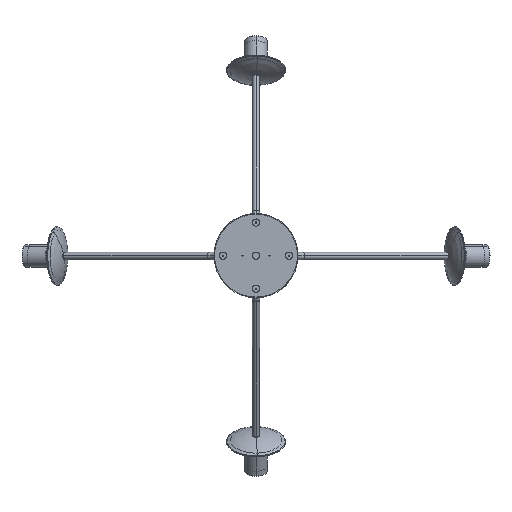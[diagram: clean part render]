
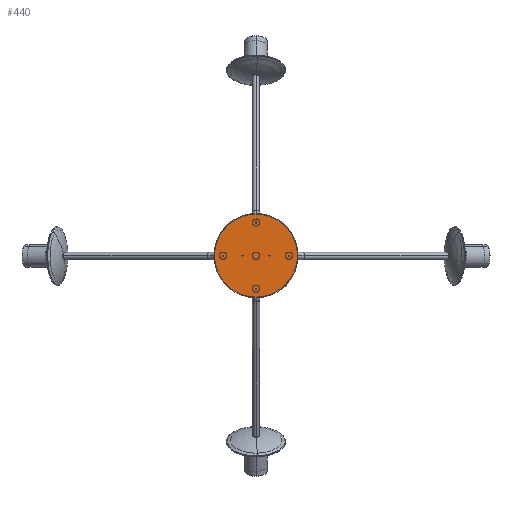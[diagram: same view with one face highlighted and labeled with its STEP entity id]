
A CAD part, top view. The second image highlights one B-rep face of the part: STEP entity #440.
In plain terms, the highlighted planar face has unit normal (0, 0, 1).
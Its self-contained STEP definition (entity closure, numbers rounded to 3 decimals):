
#36 = ORIENTED_EDGE ( 'NONE', *, *, #2342, .F. ) ;
#54 = FACE_BOUND ( 'NONE', #952, .T. ) ;
#59 = CARTESIAN_POINT ( 'NONE',  ( 0., 55., 1. ) ) ;
#129 = ORIENTED_EDGE ( 'NONE', *, *, #1726, .F. ) ;
#174 = EDGE_CURVE ( 'NONE', #4652, #2430, #6515, .T. ) ;
#255 = ORIENTED_EDGE ( 'NONE', *, *, #4792, .F. ) ;
#278 = CIRCLE ( 'NONE', #394, 1. ) ;
#299 = AXIS2_PLACEMENT_3D ( 'NONE', #4679, #3599, #4243 ) ;
#394 = AXIS2_PLACEMENT_3D ( 'NONE', #4244, #6432, #6499 ) ;
#439 = VERTEX_POINT ( 'NONE', #3881 ) ;
#440 = ADVANCED_FACE ( 'NONE', ( #5601, #6066, #1149, #4524, #54, #2772, #3455 ), #3837, .T. ) ;
#505 = DIRECTION ( 'NONE',  ( 1., 0., 0. ) ) ;
#596 = DIRECTION ( 'NONE',  ( 0., 0., 1. ) ) ;
#603 = CIRCLE ( 'NONE', #6935, 1. ) ;
#607 = VERTEX_POINT ( 'NONE', #6214 ) ;
#640 = CIRCLE ( 'NONE', #2499, 1. ) ;
#642 = CARTESIAN_POINT ( 'NONE',  ( 0., 0., 1. ) ) ;
#645 = ORIENTED_EDGE ( 'NONE', *, *, #6784, .F. ) ;
#668 = VERTEX_POINT ( 'NONE', #859 ) ;
#793 = VERTEX_POINT ( 'NONE', #3097 ) ;
#859 = CARTESIAN_POINT ( 'NONE',  ( 56., 0., 1. ) ) ;
#952 = EDGE_LOOP ( 'NONE', ( #5152, #36 ) ) ;
#965 = DIRECTION ( 'NONE',  ( 1., 0., 0. ) ) ;
#995 = AXIS2_PLACEMENT_3D ( 'NONE', #5198, #2480, #4665 ) ;
#1036 = DIRECTION ( 'NONE',  ( 1., 0., 0. ) ) ;
#1093 = AXIS2_PLACEMENT_3D ( 'NONE', #6292, #2016, #965 ) ;
#1149 = FACE_BOUND ( 'NONE', #3387, .T. ) ;
#1202 = CARTESIAN_POINT ( 'NONE',  ( 22.5, 0., 1. ) ) ;
#1279 = EDGE_LOOP ( 'NONE', ( #5961, #3084 ) ) ;
#1281 = VERTEX_POINT ( 'NONE', #2678 ) ;
#1299 = VERTEX_POINT ( 'NONE', #5943 ) ;
#1341 = AXIS2_PLACEMENT_3D ( 'NONE', #59, #4462, #1592 ) ;
#1399 = DIRECTION ( 'NONE',  ( 0., 0., 1. ) ) ;
#1429 = DIRECTION ( 'NONE',  ( 1., 0., 0. ) ) ;
#1457 = CIRCLE ( 'NONE', #2262, 1. ) ;
#1592 = DIRECTION ( 'NONE',  ( 1., 0., 0. ) ) ;
#1672 = CIRCLE ( 'NONE', #2702, 1. ) ;
#1726 = EDGE_CURVE ( 'NONE', #2430, #4652, #278, .T. ) ;
#1808 = ORIENTED_EDGE ( 'NONE', *, *, #6871, .F. ) ;
#1926 = CIRCLE ( 'NONE', #2952, 69. ) ;
#2016 = DIRECTION ( 'NONE',  ( 0., 0., 1. ) ) ;
#2032 = AXIS2_PLACEMENT_3D ( 'NONE', #5624, #3866, #6700 ) ;
#2097 = CARTESIAN_POINT ( 'NONE',  ( 0., -55., 1. ) ) ;
#2131 = DIRECTION ( 'NONE',  ( 0., 0., 1. ) ) ;
#2165 = EDGE_CURVE ( 'NONE', #3138, #6510, #5115, .T. ) ;
#2262 = AXIS2_PLACEMENT_3D ( 'NONE', #2551, #1399, #1429 ) ;
#2286 = CARTESIAN_POINT ( 'NONE',  ( -22.5, 0., 1. ) ) ;
#2288 = DIRECTION ( 'NONE',  ( -1., 0., 0. ) ) ;
#2321 = DIRECTION ( 'NONE',  ( 1., 0., 0. ) ) ;
#2342 = EDGE_CURVE ( 'NONE', #1299, #3072, #1672, .T. ) ;
#2356 = CARTESIAN_POINT ( 'NONE',  ( 54., 0., 1. ) ) ;
#2402 = ORIENTED_EDGE ( 'NONE', *, *, #4016, .F. ) ;
#2430 = VERTEX_POINT ( 'NONE', #3109 ) ;
#2469 = AXIS2_PLACEMENT_3D ( 'NONE', #642, #596, #2879 ) ;
#2480 = DIRECTION ( 'NONE',  ( 0., 0., 1. ) ) ;
#2499 = AXIS2_PLACEMENT_3D ( 'NONE', #6632, #2651, #1036 ) ;
#2542 = ORIENTED_EDGE ( 'NONE', *, *, #4980, .F. ) ;
#2551 = CARTESIAN_POINT ( 'NONE',  ( 55., 0., 1. ) ) ;
#2651 = DIRECTION ( 'NONE',  ( 0., 0., 1. ) ) ;
#2678 = CARTESIAN_POINT ( 'NONE',  ( 69., 0., 1. ) ) ;
#2702 = AXIS2_PLACEMENT_3D ( 'NONE', #2097, #2131, #3175 ) ;
#2772 = FACE_BOUND ( 'NONE', #1279, .T. ) ;
#2830 = CIRCLE ( 'NONE', #5569, 1. ) ;
#2879 = DIRECTION ( 'NONE',  ( 1., 0., 0. ) ) ;
#2925 = CARTESIAN_POINT ( 'NONE',  ( -55., 0., 1. ) ) ;
#2931 = DIRECTION ( 'NONE',  ( 0., 0., -1. ) ) ;
#2952 = AXIS2_PLACEMENT_3D ( 'NONE', #3470, #2931, #2288 ) ;
#3028 = ORIENTED_EDGE ( 'NONE', *, *, #174, .F. ) ;
#3048 = EDGE_CURVE ( 'NONE', #4613, #668, #5797, .T. ) ;
#3072 = VERTEX_POINT ( 'NONE', #5847 ) ;
#3084 = ORIENTED_EDGE ( 'NONE', *, *, #2165, .F. ) ;
#3097 = CARTESIAN_POINT ( 'NONE',  ( -56., 0., 1. ) ) ;
#3109 = CARTESIAN_POINT ( 'NONE',  ( -23.5, 0., 1. ) ) ;
#3138 = VERTEX_POINT ( 'NONE', #5279 ) ;
#3173 = CIRCLE ( 'NONE', #2032, 69. ) ;
#3175 = DIRECTION ( 'NONE',  ( 1., 0., 0. ) ) ;
#3251 = EDGE_LOOP ( 'NONE', ( #3028, #129 ) ) ;
#3256 = EDGE_CURVE ( 'NONE', #6510, #3138, #2830, .T. ) ;
#3387 = EDGE_LOOP ( 'NONE', ( #2402, #1808 ) ) ;
#3455 = FACE_OUTER_BOUND ( 'NONE', #5084, .T. ) ;
#3470 = CARTESIAN_POINT ( 'NONE',  ( 0., 0., 1. ) ) ;
#3538 = EDGE_LOOP ( 'NONE', ( #645, #6770 ) ) ;
#3599 = DIRECTION ( 'NONE',  ( 0., 0., 1. ) ) ;
#3611 = VERTEX_POINT ( 'NONE', #5484 ) ;
#3789 = EDGE_CURVE ( 'NONE', #3611, #1281, #3173, .T. ) ;
#3837 = PLANE ( 'NONE',  #2469 ) ;
#3866 = DIRECTION ( 'NONE',  ( 0., 0., -1. ) ) ;
#3881 = CARTESIAN_POINT ( 'NONE',  ( -1., 55., 1. ) ) ;
#4013 = EDGE_LOOP ( 'NONE', ( #2542, #5785 ) ) ;
#4016 = EDGE_CURVE ( 'NONE', #6884, #439, #5688, .T. ) ;
#4095 = CIRCLE ( 'NONE', #995, 1. ) ;
#4243 = DIRECTION ( 'NONE',  ( 1., 0., 0. ) ) ;
#4244 = CARTESIAN_POINT ( 'NONE',  ( -22.5, 0., 1. ) ) ;
#4318 = CIRCLE ( 'NONE', #299, 1. ) ;
#4364 = CARTESIAN_POINT ( 'NONE',  ( 22.5, 0., 1. ) ) ;
#4462 = DIRECTION ( 'NONE',  ( 0., 0., 1. ) ) ;
#4524 = FACE_BOUND ( 'NONE', #3538, .T. ) ;
#4613 = VERTEX_POINT ( 'NONE', #2356 ) ;
#4652 = VERTEX_POINT ( 'NONE', #5011 ) ;
#4665 = DIRECTION ( 'NONE',  ( 1., 0., 0. ) ) ;
#4679 = CARTESIAN_POINT ( 'NONE',  ( -55., 0., 1. ) ) ;
#4792 = EDGE_CURVE ( 'NONE', #1281, #3611, #1926, .T. ) ;
#4980 = EDGE_CURVE ( 'NONE', #607, #793, #4318, .T. ) ;
#5011 = CARTESIAN_POINT ( 'NONE',  ( -21.5, 0., 1. ) ) ;
#5048 = DIRECTION ( 'NONE',  ( 0., 0., 1. ) ) ;
#5084 = EDGE_LOOP ( 'NONE', ( #5653, #255 ) ) ;
#5115 = CIRCLE ( 'NONE', #6832, 1. ) ;
#5152 = ORIENTED_EDGE ( 'NONE', *, *, #6970, .F. ) ;
#5198 = CARTESIAN_POINT ( 'NONE',  ( 0., 55., 1. ) ) ;
#5279 = CARTESIAN_POINT ( 'NONE',  ( 21.5, 0., 1. ) ) ;
#5410 = CARTESIAN_POINT ( 'NONE',  ( 1., 55., 1. ) ) ;
#5438 = DIRECTION ( 'NONE',  ( 0., 0., 1. ) ) ;
#5484 = CARTESIAN_POINT ( 'NONE',  ( -69., 0., 1. ) ) ;
#5505 = DIRECTION ( 'NONE',  ( 1., 0., 0. ) ) ;
#5569 = AXIS2_PLACEMENT_3D ( 'NONE', #1202, #6196, #6766 ) ;
#5601 = FACE_BOUND ( 'NONE', #4013, .T. ) ;
#5624 = CARTESIAN_POINT ( 'NONE',  ( 0., 0., 1. ) ) ;
#5632 = CARTESIAN_POINT ( 'NONE',  ( 23.5, 0., 1. ) ) ;
#5653 = ORIENTED_EDGE ( 'NONE', *, *, #3789, .F. ) ;
#5688 = CIRCLE ( 'NONE', #1341, 1. ) ;
#5785 = ORIENTED_EDGE ( 'NONE', *, *, #6113, .F. ) ;
#5797 = CIRCLE ( 'NONE', #1093, 1. ) ;
#5847 = CARTESIAN_POINT ( 'NONE',  ( 1., -55., 1. ) ) ;
#5943 = CARTESIAN_POINT ( 'NONE',  ( -1., -55., 1. ) ) ;
#5961 = ORIENTED_EDGE ( 'NONE', *, *, #3256, .F. ) ;
#6066 = FACE_BOUND ( 'NONE', #3251, .T. ) ;
#6078 = AXIS2_PLACEMENT_3D ( 'NONE', #2286, #5048, #2321 ) ;
#6106 = DIRECTION ( 'NONE',  ( 0., 0., 1. ) ) ;
#6113 = EDGE_CURVE ( 'NONE', #793, #607, #603, .T. ) ;
#6196 = DIRECTION ( 'NONE',  ( 0., 0., 1. ) ) ;
#6214 = CARTESIAN_POINT ( 'NONE',  ( -54., 0., 1. ) ) ;
#6292 = CARTESIAN_POINT ( 'NONE',  ( 55., 0., 1. ) ) ;
#6432 = DIRECTION ( 'NONE',  ( 0., 0., 1. ) ) ;
#6499 = DIRECTION ( 'NONE',  ( 1., 0., 0. ) ) ;
#6510 = VERTEX_POINT ( 'NONE', #5632 ) ;
#6515 = CIRCLE ( 'NONE', #6078, 1. ) ;
#6632 = CARTESIAN_POINT ( 'NONE',  ( 0., -55., 1. ) ) ;
#6700 = DIRECTION ( 'NONE',  ( -1., 0., 0. ) ) ;
#6766 = DIRECTION ( 'NONE',  ( 1., 0., 0. ) ) ;
#6770 = ORIENTED_EDGE ( 'NONE', *, *, #3048, .F. ) ;
#6784 = EDGE_CURVE ( 'NONE', #668, #4613, #1457, .T. ) ;
#6832 = AXIS2_PLACEMENT_3D ( 'NONE', #4364, #5438, #505 ) ;
#6871 = EDGE_CURVE ( 'NONE', #439, #6884, #4095, .T. ) ;
#6884 = VERTEX_POINT ( 'NONE', #5410 ) ;
#6935 = AXIS2_PLACEMENT_3D ( 'NONE', #2925, #6106, #5505 ) ;
#6970 = EDGE_CURVE ( 'NONE', #3072, #1299, #640, .T. ) ;
